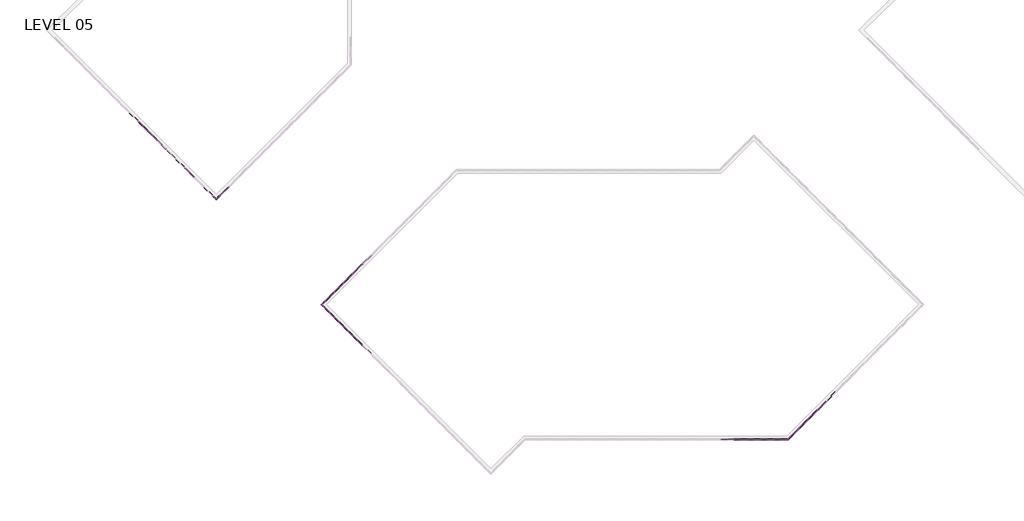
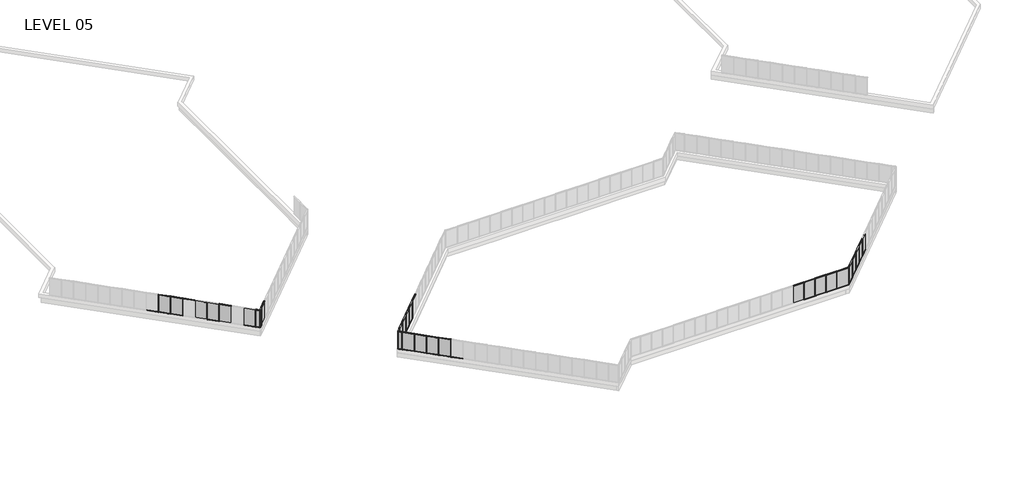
# One storey, part 2 of 17: 84 members, 29 plates.
"""IFC4 building model written with IfcOpenShell, lengths in millimetres."""

from ifc_helpers import new_model, si_unit, origin, place, context, project, spatial, transform, mapped, element, save
from components import member_5247f267, member_e44af9ab, member_800970d4, member_1bd862b2, member_7ca0f77f, member_25b26a38, member_ed9c17d6, plate_67294edd, plate_bbcbcabf, plate_3fb62afd, plate_6d527a83, plate_e0fd5134, plate_62af1d3c, plate_048e4634

model = new_model("IFC4")

# Units and contexts
model_context = context("Model", 3, world=origin())
ifc_project = project(units=[si_unit("LENGTHUNIT", "METRE", prefix="MILLI")], contexts=[model_context])

# Site, building, storey
site = spatial("IfcSite", under=ifc_project)
building = spatial("IfcBuilding", under=site)
storey = spatial("IfcBuildingStorey", under=building, Name="LEVEL 05", Elevation=15824.2)

# Members
placement = place(None, origin())
member_shape = member_5247f267(model_context)
element("IfcMember", 1, ObjectType="Rectangular Mullion : 2\" x 4.5\" rectangular", at=placement, inside=storey, context=model_context, shape_type="MappedRepresentation", body=[
    mapped(member_shape, transform((44329.35, -5092.0171279, 15824.2), x_axis=(0.0, 0.0, -1.0), y_axis=(0.0, -1.0, 0.0), z_axis=(-1.0, 0.0, 0.0))),
])
element("IfcMember", 2, ObjectType="Rectangular Mullion : 2\" x 4.5\" rectangular", at=placement, inside=storey, context=model_context, shape_type="MappedRepresentation", body=[
    mapped(member_shape, transform((45853.35, -5092.0171279, 15824.2), x_axis=(0.0, 0.0, -1.0), y_axis=(0.0, -1.0, 0.0), z_axis=(-1.0, 0.0, 0.0))),
])
element("IfcMember", 3, ObjectType="Rectangular Mullion : 2\" x 4.5\" rectangular", at=placement, inside=storey, context=model_context, shape_type="MappedRepresentation", body=[
    mapped(member_shape, transform((42805.35, -5092.0171279, 15824.2), x_axis=(0.0, 0.0, -1.0), y_axis=(0.0, -1.0, 0.0), z_axis=(-1.0, 0.0, 0.0))),
])
element("IfcMember", 4, ObjectType="Rectangular Mullion : 2\" x 4.5\" rectangular", at=placement, inside=storey, context=model_context, shape_type="MappedRepresentation", body=[
    mapped(member_shape, transform((50254.2406419, -3879.4326216, 15824.2), x_axis=(0.0, 0.0, -1.0), y_axis=(0.7071067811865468, -0.7071067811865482, 0.0), z_axis=(-0.7071067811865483, -0.7071067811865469, 0.0))),
])
element("IfcMember", 5, ObjectType="Rectangular Mullion : 2\" x 4.5\" rectangular", at=placement, inside=storey, context=model_context, shape_type="MappedRepresentation", body=[
    mapped(member_shape, transform((51331.8713765, -2801.801887, 15824.2), x_axis=(0.0, 0.0, -1.0), y_axis=(0.7071067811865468, -0.7071067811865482, 0.0), z_axis=(-0.7071067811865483, -0.7071067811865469, 0.0))),
])
element("IfcMember", 6, ObjectType="Rectangular Mullion : 2\" x 4.5\" rectangular", at=placement, inside=storey, context=model_context, shape_type="MappedRepresentation", body=[
    mapped(member_shape, transform((52409.502111, -1724.1711525, 15824.2), x_axis=(0.0, 0.0, -1.0), y_axis=(0.7071067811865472, -0.7071067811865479, 0.0), z_axis=(-0.7071067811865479, -0.7071067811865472, 0.0))),
])
element("IfcMember", 7, ObjectType="Rectangular Mullion : 2\" x 4.5\" rectangular", at=placement, inside=storey, context=model_context, shape_type="MappedRepresentation", body=[
    mapped(member_shape, transform((53487.1328455, -646.540418, 15824.2), x_axis=(0.0, 0.0, -1.0), y_axis=(0.7071067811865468, -0.7071067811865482, 0.0), z_axis=(-0.7071067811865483, -0.7071067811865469, 0.0))),
])
element("IfcMember", 8, ObjectType="Rectangular Mullion : 2\" x 4.5\" rectangular", at=placement, inside=storey, context=model_context, shape_type="MappedRepresentation", body=[
    mapped(member_shape, transform((-1378.4693146, 14091.4196932, 15824.2), x_axis=(0.0, 0.0, -1.0), y_axis=(-0.7071067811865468, 0.7071067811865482, 0.0), z_axis=(0.7071067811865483, 0.7071067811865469, 0.0))),
])
element("IfcMember", 9, ObjectType="Rectangular Mullion : 2\" x 4.5\" rectangular", at=placement, inside=storey, context=model_context, shape_type="MappedRepresentation", body=[
    mapped(member_shape, transform((-300.8459809, 15169.0430268, 15824.2), x_axis=(0.0, 0.0, -1.0), y_axis=(-0.7071067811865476, 0.7071067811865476, 0.0), z_axis=(0.7071067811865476, 0.7071067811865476, 0.0))),
])
element("IfcMember", 10, ObjectType="Rectangular Mullion : 2\" x 4.5\" rectangular", at=placement, inside=storey, context=model_context, shape_type="MappedRepresentation", body=[
    mapped(member_shape, transform((-2456.1000491, 13013.7889586, 15824.2), x_axis=(0.0, 0.0, -1.0), y_axis=(-0.7071067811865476, 0.7071067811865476, 0.0), z_axis=(0.7071067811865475, 0.7071067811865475, 0.0))),
])
element("IfcMember", 11, ObjectType="Rectangular Mullion : 2\" x 4.5\" rectangular", at=placement, inside=storey, context=model_context, shape_type="MappedRepresentation", body=[
    mapped(member_shape, transform((-3533.7307836, 11936.1582241, 15824.2), x_axis=(0.0, 0.0, -1.0), y_axis=(-0.7071067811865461, 0.7071067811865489, 0.0), z_axis=(0.7071067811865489, 0.7071067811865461, 0.0))),
])
element("IfcMember", 12, ObjectType="Rectangular Mullion : 2\" x 4.5\" rectangular", at=placement, inside=storey, context=model_context, shape_type="MappedRepresentation", body=[
    mapped(member_shape, transform((-2420.1790246, 7938.4057611, 15824.2), x_axis=(0.0, 0.0, -1.0), y_axis=(-0.7071067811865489, -0.7071067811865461, 0.0), z_axis=(-0.7071067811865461, 0.7071067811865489, 0.0))),
])
element("IfcMember", 13, ObjectType="Rectangular Mullion : 2\" x 4.5\" rectangular", at=placement, inside=storey, context=model_context, shape_type="MappedRepresentation", body=[
    mapped(member_shape, transform((-1342.5482901, 6860.7750266, 15824.2), x_axis=(0.0, 0.0, -1.0), y_axis=(-0.7071067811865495, -0.7071067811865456, 0.0), z_axis=(-0.7071067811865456, 0.7071067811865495, 0.0))),
])
element("IfcMember", 14, ObjectType="Rectangular Mullion : 2\" x 4.5\" rectangular", at=placement, inside=storey, context=model_context, shape_type="MappedRepresentation", body=[
    mapped(member_shape, transform((-3497.8097592, 9016.0364956, 15824.2), x_axis=(0.0, 0.0, -1.0), y_axis=(-0.7071067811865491, -0.7071067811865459, 0.0), z_axis=(-0.7071067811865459, 0.7071067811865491, 0.0))),
])
element("IfcMember", 15, ObjectType="Rectangular Mullion : 2\" x 4.5\" rectangular", at=placement, inside=storey, context=model_context, shape_type="MappedRepresentation", body=[
    mapped(member_shape, transform((-4575.4404937, 10093.6672302, 15824.2), x_axis=(0.0, 0.0, -1.0), y_axis=(-0.7071067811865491, -0.707106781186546, 0.0), z_axis=(-0.707106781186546, 0.7071067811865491, 0.0))),
])
element("IfcMember", 16, ObjectType="Rectangular Mullion : 2\" x 4.5\" rectangular", at=placement, inside=storey, context=model_context, shape_type="MappedRepresentation", body=[
    mapped(member_shape, transform((-264.9354228, 5783.1621593, 15824.2), x_axis=(0.0, 0.0, -1.0), y_axis=(-0.7071067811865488, -0.7071067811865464, 0.0), z_axis=(-0.7071067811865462, 0.7071067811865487, 0.0))),
])
element("IfcMember", 17, ObjectType="Rectangular Mullion : 2\" x 4.5\" rectangular", at=placement, inside=storey, context=model_context, shape_type="MappedRepresentation", body=[
    mapped(member_shape, transform((44278.55, -5092.0171279, 18415.0), x_axis=(0.0, 0.0, 1.0), y_axis=(0.0, -1.0, 0.0), z_axis=(1.0, 0.0, 0.0))),
])
element("IfcMember", 18, ObjectType="Rectangular Mullion : 2\" x 4.5\" rectangular", at=placement, inside=storey, context=model_context, shape_type="MappedRepresentation", body=[
    mapped(member_shape, transform((45802.55, -5092.0171279, 18415.0), x_axis=(0.0, 0.0, 1.0), y_axis=(0.0, -1.0, 0.0), z_axis=(1.0, 0.0, 0.0))),
])
element("IfcMember", 19, ObjectType="Rectangular Mullion : 2\" x 4.5\" rectangular", at=placement, inside=storey, context=model_context, shape_type="MappedRepresentation", body=[
    mapped(member_shape, transform((42754.55, -5092.0171279, 18415.0), x_axis=(0.0, 0.0, 1.0), y_axis=(0.0, -1.0, 0.0), z_axis=(1.0, 0.0, 0.0))),
])
element("IfcMember", 20, ObjectType="Rectangular Mullion : 2\" x 4.5\" rectangular", at=placement, inside=storey, context=model_context, shape_type="MappedRepresentation", body=[
    mapped(member_shape, transform((47326.55, -5092.0171279, 18415.0), x_axis=(0.0, 0.0, 1.0), y_axis=(0.0, -1.0, 0.0), z_axis=(1.0, 0.0, 0.0))),
])
element("IfcMember", 21, ObjectType="Rectangular Mullion : 2\" x 4.5\" rectangular", at=placement, inside=storey, context=model_context, shape_type="MappedRepresentation", body=[
    mapped(member_shape, transform((51295.950352, -2837.7229115, 18415.0), x_axis=(0.0, 0.0, 1.0), y_axis=(0.7071067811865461, -0.7071067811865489, 0.0), z_axis=(0.7071067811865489, 0.7071067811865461, 0.0))),
])
element("IfcMember", 22, ObjectType="Rectangular Mullion : 2\" x 4.5\" rectangular", at=placement, inside=storey, context=model_context, shape_type="MappedRepresentation", body=[
    mapped(member_shape, transform((52373.5810865, -1760.092177, 18415.0), x_axis=(0.0, 0.0, 1.0), y_axis=(0.7071067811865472, -0.7071067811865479, 0.0), z_axis=(0.7071067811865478, 0.7071067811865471, 0.0))),
])
element("IfcMember", 23, ObjectType="Rectangular Mullion : 2\" x 4.5\" rectangular", at=placement, inside=storey, context=model_context, shape_type="MappedRepresentation", body=[
    mapped(member_shape, transform((53451.211821, -682.4614425, 18415.0), x_axis=(0.0, 0.0, 1.0), y_axis=(0.7071067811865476, -0.7071067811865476, 0.0), z_axis=(0.7071067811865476, 0.7071067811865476, 0.0))),
])
element("IfcMember", 24, ObjectType="Rectangular Mullion : 2\" x 4.5\" rectangular", at=placement, inside=storey, context=model_context, shape_type="MappedRepresentation", body=[
    mapped(member_shape, transform((-1342.5482901, 14127.3407176, 18415.0), x_axis=(0.0, 0.0, 1.0), y_axis=(-0.7071067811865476, 0.7071067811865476, 0.0), z_axis=(-0.7071067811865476, -0.7071067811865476, 0.0))),
])
element("IfcMember", 25, ObjectType="Rectangular Mullion : 2\" x 4.5\" rectangular", at=placement, inside=storey, context=model_context, shape_type="MappedRepresentation", body=[
    mapped(member_shape, transform((-264.9249564, 15204.9640513, 18415.0), x_axis=(0.0, 0.0, 1.0), y_axis=(-0.7071067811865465, 0.7071067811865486, 0.0), z_axis=(-0.7071067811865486, -0.7071067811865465, 0.0))),
])
element("IfcMember", 26, ObjectType="Rectangular Mullion : 2\" x 4.5\" rectangular", at=placement, inside=storey, context=model_context, shape_type="MappedRepresentation", body=[
    mapped(member_shape, transform((-2420.1790246, 13049.7099831, 18415.0), x_axis=(0.0, 0.0, 1.0), y_axis=(-0.7071067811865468, 0.7071067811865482, 0.0), z_axis=(-0.7071067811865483, -0.7071067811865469, 0.0))),
])
element("IfcMember", 27, ObjectType="Rectangular Mullion : 2\" x 4.5\" rectangular", at=placement, inside=storey, context=model_context, shape_type="MappedRepresentation", body=[
    mapped(member_shape, transform((-3497.8097592, 11972.0792486, 18415.0), x_axis=(0.0, 0.0, 1.0), y_axis=(-0.7071067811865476, 0.7071067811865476, 0.0), z_axis=(-0.7071067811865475, -0.7071067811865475, 0.0))),
])
element("IfcMember", 28, ObjectType="Rectangular Mullion : 2\" x 4.5\" rectangular", at=placement, inside=storey, context=model_context, shape_type="MappedRepresentation", body=[
    mapped(member_shape, transform((-4575.4404937, 10894.4485141, 18415.0), x_axis=(0.0, 0.0, 1.0), y_axis=(-0.7071067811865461, 0.7071067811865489, 0.0), z_axis=(-0.7071067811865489, -0.7071067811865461, 0.0))),
])
element("IfcMember", 29, ObjectType="Rectangular Mullion : 2\" x 4.5\" rectangular", at=placement, inside=storey, context=model_context, shape_type="MappedRepresentation", body=[
    mapped(member_shape, transform((-2456.1000491, 7974.3267856, 18415.0), x_axis=(0.0, 0.0, 1.0), y_axis=(-0.7071067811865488, -0.7071067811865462, 0.0), z_axis=(0.7071067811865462, -0.7071067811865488, 0.0))),
])
element("IfcMember", 30, ObjectType="Rectangular Mullion : 2\" x 4.5\" rectangular", at=placement, inside=storey, context=model_context, shape_type="MappedRepresentation", body=[
    mapped(member_shape, transform((-1378.4693146, 6896.6960511, 18415.0), x_axis=(0.0, 0.0, 1.0), y_axis=(-0.7071067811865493, -0.7071067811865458, 0.0), z_axis=(0.7071067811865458, -0.7071067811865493, 0.0))),
])
element("IfcMember", 31, ObjectType="Rectangular Mullion : 2\" x 4.5\" rectangular", at=placement, inside=storey, context=model_context, shape_type="MappedRepresentation", body=[
    mapped(member_shape, transform((-3533.7307836, 9051.9575201, 18415.0), x_axis=(0.0, 0.0, 1.0), y_axis=(-0.7071067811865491, -0.707106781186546, 0.0), z_axis=(0.707106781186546, -0.7071067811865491, 0.0))),
])
element("IfcMember", 32, ObjectType="Rectangular Mullion : 2\" x 4.5\" rectangular", at=placement, inside=storey, context=model_context, shape_type="MappedRepresentation", body=[
    mapped(member_shape, transform((-300.8564473, 5819.0831838, 18415.0), x_axis=(0.0, 0.0, 1.0), y_axis=(-0.7071067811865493, -0.7071067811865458, 0.0), z_axis=(0.7071067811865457, -0.7071067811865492, 0.0))),
])
member_2_shape = member_e44af9ab(model_context)
element("IfcMember", 33, ObjectType="Rectangular Mullion : 2\" x 4.5\" rectangular", at=placement, inside=storey, context=model_context, shape_type="MappedRepresentation", body=[
    mapped(member_2_shape, transform((44303.95, -5092.0171279, 15824.2), x_axis=(1.0, 0.0, 0.0), y_axis=(0.0, -1.0, 0.0), z_axis=(0.0, 0.0, -1.0))),
])
element("IfcMember", 34, ObjectType="Rectangular Mullion : 2\" x 4.5\" rectangular", at=placement, inside=storey, context=model_context, shape_type="MappedRepresentation", body=[
    mapped(member_2_shape, transform((45827.95, -5092.0171279, 15824.2), x_axis=(1.0, 0.0, 0.0), y_axis=(0.0, -1.0, 0.0), z_axis=(0.0, 0.0, -1.0))),
])
element("IfcMember", 35, ObjectType="Rectangular Mullion : 2\" x 4.5\" rectangular", at=placement, inside=storey, context=model_context, shape_type="MappedRepresentation", body=[
    mapped(member_2_shape, transform((42779.95, -5092.0171279, 15824.2), x_axis=(1.0, 0.0, 0.0), y_axis=(0.0, -1.0, 0.0), z_axis=(0.0, 0.0, -1.0))),
])
element("IfcMember", 36, ObjectType="Rectangular Mullion : 2\" x 4.5\" rectangular", at=placement, inside=storey, context=model_context, shape_type="MappedRepresentation", body=[
    mapped(member_2_shape, transform((47351.95, -5092.0171279, 15824.2), x_axis=(1.0, 0.0, 0.0), y_axis=(0.0, -1.0, 0.0), z_axis=(0.0, 0.0, -1.0))),
])
element("IfcMember", 37, ObjectType="Rectangular Mullion : 2\" x 4.5\" rectangular", at=placement, inside=storey, context=model_context, shape_type="MappedRepresentation", body=[
    mapped(member_2_shape, transform((50236.2801297, -3897.3931338, 15824.2), x_axis=(0.7071067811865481, 0.7071067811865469, 0.0), y_axis=(0.7071067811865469, -0.7071067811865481, 0.0), z_axis=(0.0, 0.0, -1.0))),
])
element("IfcMember", 38, ObjectType="Rectangular Mullion : 2\" x 4.5\" rectangular", at=placement, inside=storey, context=model_context, shape_type="MappedRepresentation", body=[
    mapped(member_2_shape, transform((51313.9108642, -2819.7623993, 15824.2), x_axis=(0.7071067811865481, 0.7071067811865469, 0.0), y_axis=(0.7071067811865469, -0.7071067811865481, 0.0), z_axis=(0.0, 0.0, -1.0))),
])
element("IfcMember", 39, ObjectType="Rectangular Mullion : 2\" x 4.5\" rectangular", at=placement, inside=storey, context=model_context, shape_type="MappedRepresentation", body=[
    mapped(member_2_shape, transform((52391.5415988, -1742.1316648, 15824.2), x_axis=(0.7071067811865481, 0.7071067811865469, 0.0), y_axis=(0.7071067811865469, -0.7071067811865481, 0.0), z_axis=(0.0, 0.0, -1.0))),
])
element("IfcMember", 40, ObjectType="Rectangular Mullion : 2\" x 4.5\" rectangular", at=placement, inside=storey, context=model_context, shape_type="MappedRepresentation", body=[
    mapped(member_2_shape, transform((53469.1723333, -664.5009302, 15824.2), x_axis=(0.7071067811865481, 0.7071067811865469, 0.0), y_axis=(0.7071067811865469, -0.7071067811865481, 0.0), z_axis=(0.0, 0.0, -1.0))),
])
element("IfcMember", 41, ObjectType="Rectangular Mullion : 2\" x 4.5\" rectangular", at=placement, inside=storey, context=model_context, shape_type="MappedRepresentation", body=[
    mapped(member_2_shape, transform((-1360.5088023, 14109.3802054, 15824.2), x_axis=(-0.7071067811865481, -0.7071067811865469, 0.0), y_axis=(-0.7071067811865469, 0.7071067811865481, 0.0), z_axis=(0.0, 0.0, -1.0))),
])
element("IfcMember", 42, ObjectType="Rectangular Mullion : 2\" x 4.5\" rectangular", at=placement, inside=storey, context=model_context, shape_type="MappedRepresentation", body=[
    mapped(member_2_shape, transform((-282.8854687, 15187.0035391, 15824.2), x_axis=(-0.7071067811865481, -0.7071067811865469, 0.0), y_axis=(-0.7071067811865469, 0.7071067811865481, 0.0), z_axis=(0.0, 0.0, -1.0))),
])
element("IfcMember", 43, ObjectType="Rectangular Mullion : 2\" x 4.5\" rectangular", at=placement, inside=storey, context=model_context, shape_type="MappedRepresentation", body=[
    mapped(member_2_shape, transform((-2438.1395369, 13031.7494709, 15824.2), x_axis=(-0.7071067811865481, -0.7071067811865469, 0.0), y_axis=(-0.7071067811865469, 0.7071067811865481, 0.0), z_axis=(0.0, 0.0, -1.0))),
])
element("IfcMember", 44, ObjectType="Rectangular Mullion : 2\" x 4.5\" rectangular", at=placement, inside=storey, context=model_context, shape_type="MappedRepresentation", body=[
    mapped(member_2_shape, transform((-3515.7702714, 11954.1187363, 15824.2), x_axis=(-0.7071067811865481, -0.7071067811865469, 0.0), y_axis=(-0.7071067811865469, 0.7071067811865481, 0.0), z_axis=(0.0, 0.0, -1.0))),
])
element("IfcMember", 45, ObjectType="Rectangular Mullion : 2\" x 4.5\" rectangular", at=placement, inside=storey, context=model_context, shape_type="MappedRepresentation", body=[
    mapped(member_2_shape, transform((-4593.4010059, 10876.4880018, 15824.2), x_axis=(-0.7071067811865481, -0.7071067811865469, 0.0), y_axis=(-0.7071067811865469, 0.7071067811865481, 0.0), z_axis=(0.0, 0.0, -1.0))),
])
element("IfcMember", 46, ObjectType="Rectangular Mullion : 2\" x 4.5\" rectangular", at=placement, inside=storey, context=model_context, shape_type="MappedRepresentation", body=[
    mapped(member_2_shape, transform((-2438.1395369, 7956.3662734, 15824.2), x_axis=(0.7071067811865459, -0.7071067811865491, 0.0), y_axis=(-0.7071067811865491, -0.7071067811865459, 0.0), z_axis=(0.0, 0.0, -1.0))),
])
element("IfcMember", 47, ObjectType="Rectangular Mullion : 2\" x 4.5\" rectangular", at=placement, inside=storey, context=model_context, shape_type="MappedRepresentation", body=[
    mapped(member_2_shape, transform((-1360.5088023, 6878.7355388, 15824.2), x_axis=(0.7071067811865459, -0.7071067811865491, 0.0), y_axis=(-0.7071067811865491, -0.7071067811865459, 0.0), z_axis=(0.0, 0.0, -1.0))),
])
element("IfcMember", 48, ObjectType="Rectangular Mullion : 2\" x 4.5\" rectangular", at=placement, inside=storey, context=model_context, shape_type="MappedRepresentation", body=[
    mapped(member_2_shape, transform((-3515.7702714, 9033.9970079, 15824.2), x_axis=(0.7071067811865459, -0.7071067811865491, 0.0), y_axis=(-0.7071067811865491, -0.7071067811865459, 0.0), z_axis=(0.0, 0.0, -1.0))),
])
element("IfcMember", 49, ObjectType="Rectangular Mullion : 2\" x 4.5\" rectangular", at=placement, inside=storey, context=model_context, shape_type="MappedRepresentation", body=[
    mapped(member_2_shape, transform((-4593.4010059, 10111.6277424, 15824.2), x_axis=(0.7071067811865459, -0.7071067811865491, 0.0), y_axis=(-0.7071067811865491, -0.7071067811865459, 0.0), z_axis=(0.0, 0.0, -1.0))),
])
element("IfcMember", 50, ObjectType="Rectangular Mullion : 2\" x 4.5\" rectangular", at=placement, inside=storey, context=model_context, shape_type="MappedRepresentation", body=[
    mapped(member_2_shape, transform((-282.8959351, 5801.1226716, 15824.2), x_axis=(0.7071067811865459, -0.7071067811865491, 0.0), y_axis=(-0.7071067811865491, -0.7071067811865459, 0.0), z_axis=(0.0, 0.0, -1.0))),
])
member_3_shape = member_800970d4(model_context)
element("IfcMember", 51, ObjectType="Rectangular Mullion : 2\" x 4.5\" rectangular", at=placement, inside=storey, context=model_context, shape_type="MappedRepresentation", body=[
    mapped(member_3_shape, transform((49041.6561356, -5092.0171279, 15824.2), x_axis=(1.0, 0.0, 0.0), y_axis=(0.0, -1.0, 0.0), z_axis=(0.0, 0.0, -1.0))),
])
element("IfcMember", 52, ObjectType="Rectangular Mullion : 2\" x 4.5\" rectangular", at=placement, inside=storey, context=model_context, shape_type="MappedRepresentation", body=[
    mapped(member_3_shape, transform((-4975.8311356, 10494.0578721, 15824.2), x_axis=(-0.7071067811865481, -0.7071067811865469, 0.0), y_axis=(-0.7071067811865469, 0.7071067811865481, 0.0), z_axis=(0.0, 0.0, -1.0))),
])
element("IfcMember", 53, ObjectType="Rectangular Mullion : 2\" x 4.5\" rectangular", at=placement, inside=storey, context=model_context, shape_type="MappedRepresentation", body=[
    mapped(member_3_shape, transform((49041.6561356, -5092.0171279, 18415.0), x_axis=(-0.7071067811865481, -0.7071067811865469, 0.0), y_axis=(0.7071067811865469, -0.7071067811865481, 0.0), z_axis=(0.0, 0.0, 1.0))),
])
element("IfcMember", 54, ObjectType="Rectangular Mullion : 2\" x 4.5\" rectangular", at=placement, inside=storey, context=model_context, shape_type="MappedRepresentation", body=[
    mapped(member_3_shape, transform((-4975.8311356, 10494.0578721, 18415.0), x_axis=(-0.7071067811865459, 0.7071067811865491, 0.0), y_axis=(-0.7071067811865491, -0.7071067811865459, 0.0), z_axis=(0.0, 0.0, 1.0))),
])
member_4_shape = member_1bd862b2(model_context)
element("IfcMember", 55, ObjectType="Rectangular Mullion : 2\" x 4.5\" rectangular", at=placement, inside=storey, context=model_context, shape_type="MappedRepresentation", body=[
    mapped(member_4_shape, transform((48990.8561356, -5092.0171279, 18415.0), x_axis=(0.0, 0.0, 1.0), y_axis=(0.0, -1.0, 0.0), z_axis=(1.0, 0.0, 0.0))),
])
element("IfcMember", 56, ObjectType="Rectangular Mullion : 2\" x 4.5\" rectangular", at=placement, inside=storey, context=model_context, shape_type="MappedRepresentation", body=[
    mapped(member_4_shape, transform((47377.35, -5092.0171279, 15824.2), x_axis=(0.0, 0.0, -1.0), y_axis=(0.0, -1.0, 0.0), z_axis=(-1.0, 0.0, 0.0))),
])
member_5_shape = member_7ca0f77f(model_context)
element("IfcMember", 57, ObjectType="Rectangular Mullion : 2\" x 4.5\" rectangular", at=placement, inside=storey, context=model_context, shape_type="MappedRepresentation", body=[
    mapped(member_5_shape, transform((50218.3196175, -3915.3536461, 18415.0), x_axis=(0.0, 0.0, 1.0), y_axis=(0.7071067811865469, -0.7071067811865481, 0.0), z_axis=(0.7071067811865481, 0.7071067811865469, 0.0))),
])
element("IfcMember", 58, ObjectType="Rectangular Mullion : 2\" x 4.5\" rectangular", at=placement, inside=storey, context=model_context, shape_type="MappedRepresentation", body=[
    mapped(member_5_shape, transform((49077.5771601, -5056.0961034, 15824.2), x_axis=(0.0, 0.0, -1.0), y_axis=(0.7071067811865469, -0.7071067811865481, 0.0), z_axis=(-0.7071067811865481, -0.7071067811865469, 0.0))),
])
member_6_shape = member_25b26a38(model_context)
element("IfcMember", 59, ObjectType="Rectangular Mullion : 2\" x 4.5\" rectangular", at=placement, inside=storey, context=model_context, shape_type="MappedRepresentation", body=[
    mapped(member_6_shape, transform((-4611.3615182, 10858.5274896, 15824.2), x_axis=(0.0, 0.0, -1.0), y_axis=(-0.7071067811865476, 0.7071067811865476, 0.0), z_axis=(0.7071067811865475, 0.7071067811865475, 0.0))),
])
element("IfcMember", 60, ObjectType="Rectangular Mullion : 2\" x 4.5\" rectangular", at=placement, inside=storey, context=model_context, shape_type="MappedRepresentation", body=[
    mapped(member_6_shape, transform((-4939.9101111, 10458.1368476, 15824.2), x_axis=(0.0, 0.0, -1.0), y_axis=(-0.7071067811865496, -0.7071067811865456, 0.0), z_axis=(-0.7071067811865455, 0.7071067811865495, 0.0))),
])
element("IfcMember", 61, ObjectType="Rectangular Mullion : 2\" x 4.5\" rectangular", at=placement, inside=storey, context=model_context, shape_type="MappedRepresentation", body=[
    mapped(member_6_shape, transform((-4939.9101111, 10529.9788966, 18415.0), x_axis=(0.0, 0.0, 1.0), y_axis=(-0.7071067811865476, 0.7071067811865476, 0.0), z_axis=(-0.7071067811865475, -0.7071067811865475, 0.0))),
])
element("IfcMember", 62, ObjectType="Rectangular Mullion : 2\" x 4.5\" rectangular", at=placement, inside=storey, context=model_context, shape_type="MappedRepresentation", body=[
    mapped(member_6_shape, transform((-4611.3615182, 10129.5882547, 18415.0), x_axis=(0.0, 0.0, 1.0), y_axis=(-0.707106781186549, -0.707106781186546, 0.0), z_axis=(0.707106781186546, -0.707106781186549, 0.0))),
])
element("IfcMember", 63, ObjectType="Rectangular Mullion : 2\" x 4.5\" rectangular", at=placement, inside=storey, context=model_context, shape_type="MappedRepresentation", body=[
    mapped(member_shape, transform((-16797.5690745, 23116.5770948, 18415.0), x_axis=(0.0, 0.0, 1.0), y_axis=(-0.7071067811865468, 0.7071067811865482, 0.0), z_axis=(-0.7071067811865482, -0.7071067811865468, 0.0))),
])
element("IfcMember", 64, ObjectType="Rectangular Mullion : 2\" x 4.5\" rectangular", at=placement, inside=storey, context=model_context, shape_type="MappedRepresentation", body=[
    mapped(member_shape, transform((-20795.3215374, 26313.5482739, 18415.0), x_axis=(0.0, 0.0, 1.0), y_axis=(0.7071067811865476, 0.7071067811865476, 0.0), z_axis=(-0.7071067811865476, 0.7071067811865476, 0.0))),
])
element("IfcMember", 65, ObjectType="Rectangular Mullion : 2\" x 4.5\" rectangular", at=placement, inside=storey, context=model_context, shape_type="MappedRepresentation", body=[
    mapped(member_shape, transform((-24028.142272, 29546.3690085, 18415.0), x_axis=(0.0, 0.0, 1.0), y_axis=(0.707106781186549, 0.7071067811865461, 0.0), z_axis=(-0.7071067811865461, 0.707106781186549, 0.0))),
])
element("IfcMember", 66, ObjectType="Rectangular Mullion : 2\" x 4.5\" rectangular", at=placement, inside=storey, context=model_context, shape_type="MappedRepresentation", body=[
    mapped(member_shape, transform((-25105.737272, 30623.9640085, 18415.0), x_axis=(0.0, 0.0, 1.0), y_axis=(0.7071067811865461, 0.707106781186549, 0.0), z_axis=(-0.707106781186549, 0.7071067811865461, 0.0))),
])
element("IfcMember", 67, ObjectType="Rectangular Mullion : 2\" x 4.5\" rectangular", at=placement, inside=storey, context=model_context, shape_type="MappedRepresentation", body=[
    mapped(member_shape, transform((-26183.332272, 31701.5590085, 18415.0), x_axis=(0.0, 0.0, 1.0), y_axis=(0.7071067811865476, 0.7071067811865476, 0.0), z_axis=(-0.7071067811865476, 0.7071067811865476, 0.0))),
])
element("IfcMember", 68, ObjectType="Rectangular Mullion : 2\" x 4.5\" rectangular", at=placement, inside=storey, context=model_context, shape_type="MappedRepresentation", body=[
    mapped(member_shape, transform((-20831.2425619, 26349.4692984, 15824.2), x_axis=(0.0, 0.0, -1.0), y_axis=(0.7071067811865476, 0.7071067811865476, 0.0), z_axis=(0.7071067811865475, -0.7071067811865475, 0.0))),
])
element("IfcMember", 69, ObjectType="Rectangular Mullion : 2\" x 4.5\" rectangular", at=placement, inside=storey, context=model_context, shape_type="MappedRepresentation", body=[
    mapped(member_shape, transform((-24064.0632965, 29582.2900329, 15824.2), x_axis=(0.0, 0.0, -1.0), y_axis=(0.7071067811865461, 0.707106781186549, 0.0), z_axis=(0.707106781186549, -0.7071067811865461, 0.0))),
])
element("IfcMember", 70, ObjectType="Rectangular Mullion : 2\" x 4.5\" rectangular", at=placement, inside=storey, context=model_context, shape_type="MappedRepresentation", body=[
    mapped(member_shape, transform((-25141.6582965, 30659.8850329, 15824.2), x_axis=(0.0, 0.0, -1.0), y_axis=(0.7071067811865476, 0.7071067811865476, 0.0), z_axis=(0.7071067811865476, -0.7071067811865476, 0.0))),
])
element("IfcMember", 71, ObjectType="Rectangular Mullion : 2\" x 4.5\" rectangular", at=placement, inside=storey, context=model_context, shape_type="MappedRepresentation", body=[
    mapped(member_shape, transform((-17598.3503583, 23116.5770948, 15824.2), x_axis=(0.0, 0.0, -1.0), y_axis=(0.7071067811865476, 0.7071067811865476, 0.0), z_axis=(0.7071067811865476, -0.7071067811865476, 0.0))),
])
element("IfcMember", 72, ObjectType="Rectangular Mullion : 2\" x 4.5\" rectangular", at=placement, inside=storey, context=model_context, shape_type="MappedRepresentation", body=[
    mapped(member_2_shape, transform((-16815.5295867, 23098.6165826, 15824.2), x_axis=(-0.7071067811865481, -0.7071067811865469, 0.0), y_axis=(-0.7071067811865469, 0.7071067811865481, 0.0), z_axis=(0.0, 0.0, -1.0))),
])
element("IfcMember", 73, ObjectType="Rectangular Mullion : 2\" x 4.5\" rectangular", at=placement, inside=storey, context=model_context, shape_type="MappedRepresentation", body=[
    mapped(member_2_shape, transform((-20813.2820497, 26331.5087862, 15824.2), x_axis=(-0.7071067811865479, 0.7071067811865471, 0.0), y_axis=(0.7071067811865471, 0.7071067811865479, 0.0), z_axis=(0.0, 0.0, -1.0))),
])
element("IfcMember", 74, ObjectType="Rectangular Mullion : 2\" x 4.5\" rectangular", at=placement, inside=storey, context=model_context, shape_type="MappedRepresentation", body=[
    mapped(member_2_shape, transform((-24046.1027842, 29564.3295207, 15824.2), x_axis=(-0.7071067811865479, 0.7071067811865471, 0.0), y_axis=(0.7071067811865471, 0.7071067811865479, 0.0), z_axis=(0.0, 0.0, -1.0))),
])
element("IfcMember", 75, ObjectType="Rectangular Mullion : 2\" x 4.5\" rectangular", at=placement, inside=storey, context=model_context, shape_type="MappedRepresentation", body=[
    mapped(member_2_shape, transform((-25123.6977842, 30641.9245207, 15824.2), x_axis=(-0.7071067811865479, 0.7071067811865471, 0.0), y_axis=(0.7071067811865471, 0.7071067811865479, 0.0), z_axis=(0.0, 0.0, -1.0))),
])
element("IfcMember", 76, ObjectType="Rectangular Mullion : 2\" x 4.5\" rectangular", at=placement, inside=storey, context=model_context, shape_type="MappedRepresentation", body=[
    mapped(member_2_shape, transform((-26201.2927842, 31719.5195207, 15824.2), x_axis=(-0.7071067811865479, 0.7071067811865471, 0.0), y_axis=(0.7071067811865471, 0.7071067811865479, 0.0), z_axis=(0.0, 0.0, -1.0))),
])
element("IfcMember", 77, ObjectType="Rectangular Mullion : 2\" x 4.5\" rectangular", at=placement, inside=storey, context=model_context, shape_type="MappedRepresentation", body=[
    mapped(member_2_shape, transform((-17580.3898461, 23098.6165826, 15824.2), x_axis=(-0.7071067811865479, 0.7071067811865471, 0.0), y_axis=(0.7071067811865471, 0.7071067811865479, 0.0), z_axis=(0.0, 0.0, -1.0))),
])
element("IfcMember", 78, ObjectType="Rectangular Mullion : 2\" x 4.5\" rectangular", at=placement, inside=storey, context=model_context, shape_type="MappedRepresentation", body=[
    mapped(member_3_shape, transform((-17197.9597164, 22716.1864529, 15824.2), x_axis=(-0.7071067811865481, -0.7071067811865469, 0.0), y_axis=(-0.7071067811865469, 0.7071067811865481, 0.0), z_axis=(0.0, 0.0, -1.0))),
])
element("IfcMember", 79, ObjectType="Rectangular Mullion : 2\" x 4.5\" rectangular", at=placement, inside=storey, context=model_context, shape_type="MappedRepresentation", body=[
    mapped(member_3_shape, transform((-17197.9597164, 22716.1864529, 18415.0), x_axis=(0.7071067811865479, -0.7071067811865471, 0.0), y_axis=(0.7071067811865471, 0.7071067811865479, 0.0), z_axis=(0.0, 0.0, 1.0))),
])
element("IfcMember", 80, ObjectType="Rectangular Mullion : 2\" x 4.5\" rectangular", at=placement, inside=storey, context=model_context, shape_type="MappedRepresentation", body=[
    mapped(member_6_shape, transform((-17162.0386919, 22752.1074774, 18415.0), x_axis=(0.0, 0.0, 1.0), y_axis=(-0.7071067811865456, 0.7071067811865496, 0.0), z_axis=(-0.7071067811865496, -0.7071067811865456, 0.0))),
])
element("IfcMember", 81, ObjectType="Rectangular Mullion : 2\" x 4.5\" rectangular", at=placement, inside=storey, context=model_context, shape_type="MappedRepresentation", body=[
    mapped(member_6_shape, transform((-17562.4293339, 23080.6560704, 18415.0), x_axis=(0.0, 0.0, 1.0), y_axis=(0.7071067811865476, 0.7071067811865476, 0.0), z_axis=(-0.7071067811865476, 0.7071067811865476, 0.0))),
])
element("IfcMember", 82, ObjectType="Rectangular Mullion : 2\" x 4.5\" rectangular", at=placement, inside=storey, context=model_context, shape_type="MappedRepresentation", body=[
    mapped(member_6_shape, transform((-16833.4900989, 23080.6560704, 15824.2), x_axis=(0.0, 0.0, -1.0), y_axis=(-0.7071067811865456, 0.7071067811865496, 0.0), z_axis=(0.7071067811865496, 0.7071067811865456, 0.0))),
])
element("IfcMember", 83, ObjectType="Rectangular Mullion : 2\" x 4.5\" rectangular", at=placement, inside=storey, context=model_context, shape_type="MappedRepresentation", body=[
    mapped(member_6_shape, transform((-17233.8807409, 22752.1074774, 15824.2), x_axis=(0.0, 0.0, -1.0), y_axis=(0.7071067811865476, 0.7071067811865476, 0.0), z_axis=(0.7071067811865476, -0.7071067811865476, 0.0))),
])
member_7_shape = member_ed9c17d6(model_context)
element("IfcMember", 84, ObjectType="Rectangular Mullion : 2\" x 4.5\" rectangular", at=placement, inside=storey, context=model_context, shape_type="MappedRepresentation", body=[
    mapped(member_7_shape, transform((-26219.2532965, 31737.4800329, 15824.2), x_axis=(0.0, 0.0, -1.0), y_axis=(0.7071067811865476, 0.7071067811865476, 0.0), z_axis=(0.7071067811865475, -0.7071067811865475, 0.0))),
])

# Plates
plate_shape = plate_67294edd(model_context)
element("IfcPlate", 85, ObjectType="System Panel : 1/4\" Glass", at=placement, inside=storey, context=model_context, shape_type="MappedRepresentation", body=[
    mapped(plate_shape, transform((45065.95, -5092.0171279, 15875.0), x_axis=(1.0, 0.0, 0.0), y_axis=(0.0, 1.0, 0.0), z_axis=(0.0, 0.0, 1.0))),
])
element("IfcPlate", 86, ObjectType="System Panel : 1/4\" Glass", at=placement, inside=storey, context=model_context, shape_type="MappedRepresentation", body=[
    mapped(plate_shape, transform((46589.95, -5092.0171279, 15875.0), x_axis=(1.0, 0.0, 0.0), y_axis=(0.0, 1.0, 0.0), z_axis=(0.0, 0.0, 1.0))),
])
element("IfcPlate", 87, ObjectType="System Panel : 1/4\" Glass", at=placement, inside=storey, context=model_context, shape_type="MappedRepresentation", body=[
    mapped(plate_shape, transform((42017.95, -5092.0171279, 15875.0), x_axis=(1.0, 0.0, 0.0), y_axis=(0.0, 1.0, 0.0), z_axis=(0.0, 0.0, 1.0))),
])
element("IfcPlate", 88, ObjectType="System Panel : 1/4\" Glass", at=placement, inside=storey, context=model_context, shape_type="MappedRepresentation", body=[
    mapped(plate_shape, transform((43541.95, -5092.0171279, 15875.0), x_axis=(1.0, 0.0, 0.0), y_axis=(0.0, 1.0, 0.0), z_axis=(0.0, 0.0, 1.0))),
])
element("IfcPlate", 89, ObjectType="System Panel : 1/4\" Glass", at=placement, inside=storey, context=model_context, shape_type="MappedRepresentation", body=[
    mapped(plate_shape, transform((50775.095497, -3358.5777665, 15875.0), x_axis=(0.7071067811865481, 0.7071067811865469, 0.0), y_axis=(-0.7071067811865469, 0.7071067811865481, 0.0), z_axis=(0.0, 0.0, 1.0))),
])
element("IfcPlate", 90, ObjectType="System Panel : 1/4\" Glass", at=placement, inside=storey, context=model_context, shape_type="MappedRepresentation", body=[
    mapped(plate_shape, transform((51852.7262315, -2280.947032, 15875.0), x_axis=(0.7071067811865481, 0.7071067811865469, 0.0), y_axis=(-0.7071067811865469, 0.7071067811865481, 0.0), z_axis=(0.0, 0.0, 1.0))),
])
element("IfcPlate", 91, ObjectType="System Panel : 1/4\" Glass", at=placement, inside=storey, context=model_context, shape_type="MappedRepresentation", body=[
    mapped(plate_shape, transform((52930.356966, -1203.3162975, 15875.0), x_axis=(0.7071067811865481, 0.7071067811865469, 0.0), y_axis=(-0.7071067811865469, 0.7071067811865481, 0.0), z_axis=(0.0, 0.0, 1.0))),
])
element("IfcPlate", 92, ObjectType="System Panel : 1/4\" Glass", at=placement, inside=storey, context=model_context, shape_type="MappedRepresentation", body=[
    mapped(plate_shape, transform((54007.9877005, -125.685563, 15875.0), x_axis=(0.7071067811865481, 0.7071067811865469, 0.0), y_axis=(-0.7071067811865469, 0.7071067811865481, 0.0), z_axis=(0.0, 0.0, 1.0))),
])
element("IfcPlate", 93, ObjectType="System Panel : 1/4\" Glass", at=placement, inside=storey, context=model_context, shape_type="MappedRepresentation", body=[
    mapped(plate_shape, transform((-1899.3241696, 13570.5648381, 15875.0), x_axis=(-0.7071067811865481, -0.7071067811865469, 0.0), y_axis=(0.7071067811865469, -0.7071067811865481, 0.0), z_axis=(0.0, 0.0, 1.0))),
])
element("IfcPlate", 94, ObjectType="System Panel : 1/4\" Glass", at=placement, inside=storey, context=model_context, shape_type="MappedRepresentation", body=[
    mapped(plate_shape, transform((-2976.9549041, 12492.9341036, 15875.0), x_axis=(-0.7071067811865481, -0.7071067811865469, 0.0), y_axis=(0.7071067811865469, -0.7071067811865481, 0.0), z_axis=(0.0, 0.0, 1.0))),
])
element("IfcPlate", 95, ObjectType="System Panel : 1/4\" Glass", at=placement, inside=storey, context=model_context, shape_type="MappedRepresentation", body=[
    mapped(plate_shape, transform((-4054.5856387, 11415.3033691, 15875.0), x_axis=(-0.7071067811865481, -0.7071067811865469, 0.0), y_axis=(0.7071067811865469, -0.7071067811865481, 0.0), z_axis=(0.0, 0.0, 1.0))),
])
element("IfcPlate", 96, ObjectType="System Panel : 1/4\" Glass", at=placement, inside=storey, context=model_context, shape_type="MappedRepresentation", body=[
    mapped(plate_shape, transform((-1899.3241696, 7417.5509061, 15875.0), x_axis=(0.7071067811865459, -0.7071067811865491, 0.0), y_axis=(0.7071067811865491, 0.7071067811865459, 0.0), z_axis=(0.0, 0.0, 1.0))),
])
element("IfcPlate", 97, ObjectType="System Panel : 1/4\" Glass", at=placement, inside=storey, context=model_context, shape_type="MappedRepresentation", body=[
    mapped(plate_shape, transform((-2976.9549041, 8495.1816406, 15875.0), x_axis=(0.7071067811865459, -0.7071067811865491, 0.0), y_axis=(0.7071067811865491, 0.7071067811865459, 0.0), z_axis=(0.0, 0.0, 1.0))),
])
element("IfcPlate", 98, ObjectType="System Panel : 1/4\" Glass", at=placement, inside=storey, context=model_context, shape_type="MappedRepresentation", body=[
    mapped(plate_shape, transform((-4054.5856387, 9572.8123752, 15875.0), x_axis=(0.7071067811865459, -0.7071067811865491, 0.0), y_axis=(0.7071067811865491, 0.7071067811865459, 0.0), z_axis=(0.0, 0.0, 1.0))),
])
plate_2_shape = plate_bbcbcabf(model_context)
element("IfcPlate", 99, ObjectType="System Panel : 1/4\" Glass", at=placement, inside=storey, context=model_context, shape_type="MappedRepresentation", body=[
    mapped(plate_2_shape, transform((48184.1030678, -5092.0171279, 15875.0), x_axis=(1.0, 0.0, 0.0), y_axis=(0.0, 1.0, 0.0), z_axis=(0.0, 0.0, 1.0))),
])
plate_3_shape = plate_3fb62afd(model_context)
element("IfcPlate", 100, ObjectType="System Panel : 1/4\" Glass", at=placement, inside=storey, context=model_context, shape_type="MappedRepresentation", body=[
    mapped(plate_3_shape, transform((49647.9483888, -4485.7248747, 15875.0), x_axis=(0.7071067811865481, 0.7071067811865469, 0.0), y_axis=(-0.7071067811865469, 0.7071067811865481, 0.0), z_axis=(0.0, 0.0, 1.0))),
])
plate_4_shape = plate_6d527a83(model_context)
element("IfcPlate", 101, ObjectType="System Panel : 1/4\" Glass", at=placement, inside=storey, context=model_context, shape_type="MappedRepresentation", body=[
    mapped(plate_4_shape, transform((-4775.6358147, 10694.2531931, 15875.0), x_axis=(-0.7071067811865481, -0.7071067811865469, 0.0), y_axis=(0.7071067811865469, -0.7071067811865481, 0.0), z_axis=(0.0, 0.0, 1.0))),
])
element("IfcPlate", 102, ObjectType="System Panel : 1/4\" Glass", at=placement, inside=storey, context=model_context, shape_type="MappedRepresentation", body=[
    mapped(plate_4_shape, transform((-4775.6358147, 10293.8625511, 15875.0), x_axis=(0.7071067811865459, -0.7071067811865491, 0.0), y_axis=(0.7071067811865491, 0.7071067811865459, 0.0), z_axis=(0.0, 0.0, 1.0))),
])
plate_5_shape = plate_e0fd5134(model_context)
element("IfcPlate", 103, ObjectType="System Panel : 1/4\" Glass", at=placement, inside=storey, context=model_context, shape_type="MappedRepresentation", body=[
    mapped(plate_5_shape, transform((-821.6971355, 14648.1918722, 15875.0), x_axis=(-0.7071067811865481, -0.7071067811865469, 0.0), y_axis=(0.7071067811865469, -0.7071067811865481, 0.0), z_axis=(0.0, 0.0, 1.0))),
])
plate_6_shape = plate_62af1d3c(model_context)
element("IfcPlate", 104, ObjectType="System Panel : 1/4\" Glass", at=placement, inside=storey, context=model_context, shape_type="MappedRepresentation", body=[
    mapped(plate_6_shape, transform((-821.7023687, 6339.9291052, 15875.0), x_axis=(0.7071067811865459, -0.7071067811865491, 0.0), y_axis=(0.7071067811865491, 0.7071067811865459, 0.0), z_axis=(0.0, 0.0, 1.0))),
])
element("IfcPlate", 105, ObjectType="System Panel : 1/4\" Glass", at=placement, inside=storey, context=model_context, shape_type="MappedRepresentation", body=[
    mapped(plate_shape, transform((-16276.7142194, 23637.4319499, 15875.0), x_axis=(-0.7071067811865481, -0.7071067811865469, 0.0), y_axis=(0.7071067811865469, -0.7071067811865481, 0.0), z_axis=(0.0, 0.0, 1.0))),
])
element("IfcPlate", 106, ObjectType="System Panel : 1/4\" Glass", at=placement, inside=storey, context=model_context, shape_type="MappedRepresentation", body=[
    mapped(plate_shape, transform((-20274.4666824, 25792.6934189, 15875.0), x_axis=(-0.7071067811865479, 0.7071067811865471, 0.0), y_axis=(-0.7071067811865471, -0.7071067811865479, 0.0), z_axis=(0.0, 0.0, 1.0))),
])
element("IfcPlate", 107, ObjectType="System Panel : 1/4\" Glass", at=placement, inside=storey, context=model_context, shape_type="MappedRepresentation", body=[
    mapped(plate_shape, transform((-18119.2052134, 23637.4319499, 15875.0), x_axis=(-0.7071067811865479, 0.7071067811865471, 0.0), y_axis=(-0.7071067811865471, -0.7071067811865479, 0.0), z_axis=(0.0, 0.0, 1.0))),
])
plate_7_shape = plate_048e4634(model_context)
element("IfcPlate", 108, ObjectType="System Panel : 1/4\" Glass", at=placement, inside=storey, context=model_context, shape_type="MappedRepresentation", body=[
    mapped(plate_7_shape, transform((-24584.9002842, 30103.1270207, 15875.0), x_axis=(-0.7071067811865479, 0.7071067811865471, 0.0), y_axis=(-0.7071067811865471, -0.7071067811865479, 0.0), z_axis=(0.0, 0.0, 1.0))),
])
element("IfcPlate", 109, ObjectType="System Panel : 1/4\" Glass", at=placement, inside=storey, context=model_context, shape_type="MappedRepresentation", body=[
    mapped(plate_7_shape, transform((-25662.4952842, 31180.7220207, 15875.0), x_axis=(-0.7071067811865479, 0.7071067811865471, 0.0), y_axis=(-0.7071067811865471, -0.7071067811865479, 0.0), z_axis=(0.0, 0.0, 1.0))),
])
element("IfcPlate", 110, ObjectType="System Panel : 1/4\" Glass", at=placement, inside=storey, context=model_context, shape_type="MappedRepresentation", body=[
    mapped(plate_4_shape, transform((-16997.7643954, 22916.3817739, 15875.0), x_axis=(-0.7071067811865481, -0.7071067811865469, 0.0), y_axis=(0.7071067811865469, -0.7071067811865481, 0.0), z_axis=(0.0, 0.0, 1.0))),
])
element("IfcPlate", 111, ObjectType="System Panel : 1/4\" Glass", at=placement, inside=storey, context=model_context, shape_type="MappedRepresentation", body=[
    mapped(plate_4_shape, transform((-17398.1550374, 22916.3817739, 15875.0), x_axis=(-0.7071067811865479, 0.7071067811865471, 0.0), y_axis=(-0.7071067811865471, -0.7071067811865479, 0.0), z_axis=(0.0, 0.0, 1.0))),
])
element("IfcPlate", 112, ObjectType="System Panel : 1/4\" Glass", at=placement, inside=storey, context=model_context, shape_type="MappedRepresentation", body=[
    mapped(plate_6_shape, transform((-21352.0884833, 26870.3152198, 15875.0), x_axis=(-0.7071067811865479, 0.7071067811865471, 0.0), y_axis=(-0.7071067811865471, -0.7071067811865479, 0.0), z_axis=(0.0, 0.0, 1.0))),
])
element("IfcPlate", 113, ObjectType="System Panel : 1/4\" Glass", at=placement, inside=storey, context=model_context, shape_type="MappedRepresentation", body=[
    mapped(plate_6_shape, transform((-22429.7013506, 27947.9280871, 15875.0), x_axis=(-0.7071067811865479, 0.7071067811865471, 0.0), y_axis=(-0.7071067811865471, -0.7071067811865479, 0.0), z_axis=(0.0, 0.0, 1.0))),
])

save(model, "model.ifc")
